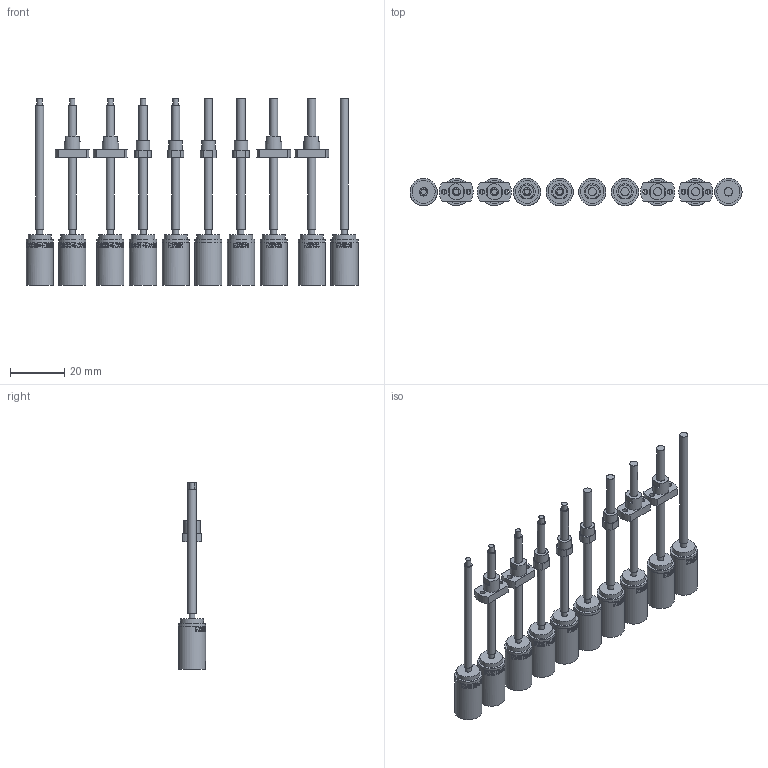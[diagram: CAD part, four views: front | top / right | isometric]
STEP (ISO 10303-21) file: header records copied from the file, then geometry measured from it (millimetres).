
FILE_DESCRIPTION(/* description */ (''),/* implementation_level */ '2;1');
FILE_NAME(/* name */ '10L-3stage_SL_standard_KWNx_KWS1.stp',/* time_stamp */ '2023-05-12T06:54:50+02:00',/* author */ ('DR. FRITZ FAULHABER GmbH & Co. KG'),/* organization */ ('DR. FRITZ FAULHABER GmbH & Co. KG'),/* preprocessor_version */ 'ST-DEVELOPER v16.7',/* originating_system */ 'SIEMENS PLM Software NX 1919',/* authorisation */ '');
FILE_SCHEMA (('AUTOMOTIVE_DESIGN { 1 0 10303 214 3 1 1 1 }'));
Length unit declared in the file: millimetre
Products named in the file (1): H99999996-C-Linear Actuato
Bounding box: 122 x 10 x 68.65 mm (x, y, z)
Volume: 18474.2 mm3; surface area: 14359.4 mm2
Topology: 10 solids, 10 shells, 940 faces, 2267 edges, 1512 vertices
Faces by surface type: plane 484, bspline 245, cylinder 201, cone 10
Full cylindrical faces by diameter (mm): 1.8 x8, 2 x5, 2.2 x10, 3 x18, 3.12 x10, 3.52 x10, 4.959 x10, 5 x4, 6 x14, 8.5 x10, 9.8 x10, 10 x20
Entity records: 45062 total; most frequent: CARTESIAN_POINT 21937, ORIENTED_EDGE 4184, DIRECTION 2779, EDGE_CURVE 2092, VERTEX_POINT 1478, EDGE_LOOP 1262, B_SPLINE_CURVE_WITH_KNOTS 1198, AXIS2_PLACEMENT_3D 1189
